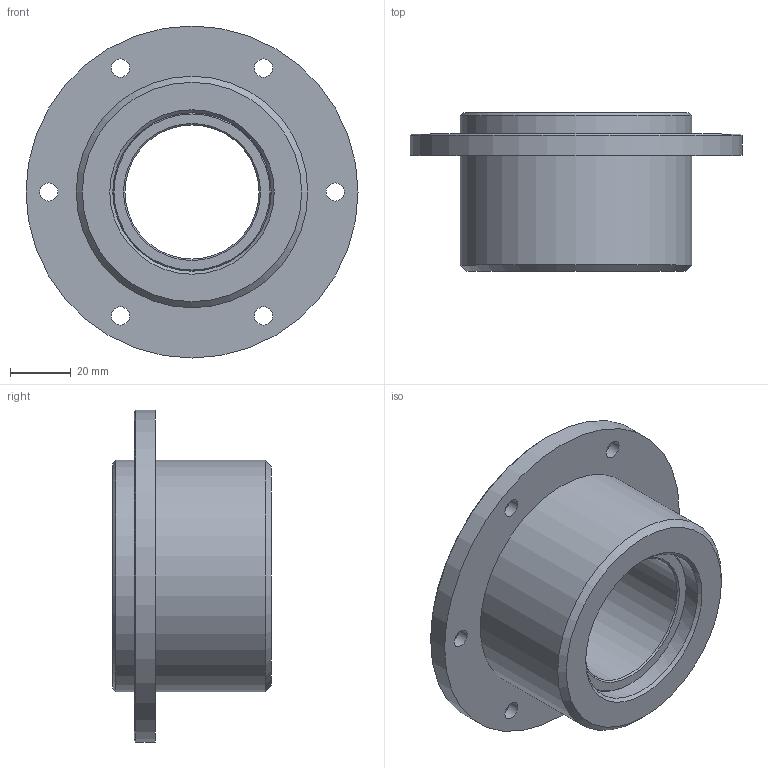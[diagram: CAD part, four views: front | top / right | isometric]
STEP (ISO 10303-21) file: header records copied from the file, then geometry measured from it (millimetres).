
FILE_DESCRIPTION(('STEP AP214'),'1');
FILE_NAME('C:/Projets/Serie 10.xx.xx/10.13.04.step','2011-11-10T15:43:01',(' '),(' '),'Spatial InterOp 3D',' ',' ');
FILE_SCHEMA(('automotive_design'));
Length unit declared in the file: metre
Products named in the file (3): boitier 04; rotule 04; 1
Bounding box: 109 x 52 x 109 mm (x, y, z)
Volume: 171915.7 mm3; surface area: 51496.3 mm2
Topology: 2 solids, 2 shells, 55 faces, 519 edges, 857 vertices
Faces by surface type: cone 20, cylinder 19, plane 14, sphere 2
Full cylindrical faces by diameter (mm): 6 x6, 44 x1, 52 x1, 76 x2, 109 x1
Entity records: 6606 total; most frequent: CARTESIAN_POINT 681, DIRECTION 655, STYLED_ITEM 442, PRESENTATION_STYLE_ASSIGNMENT 442, COLOUR_RGB 442, LINE 411, VECTOR 411, TRIMMED_CURVE 387
